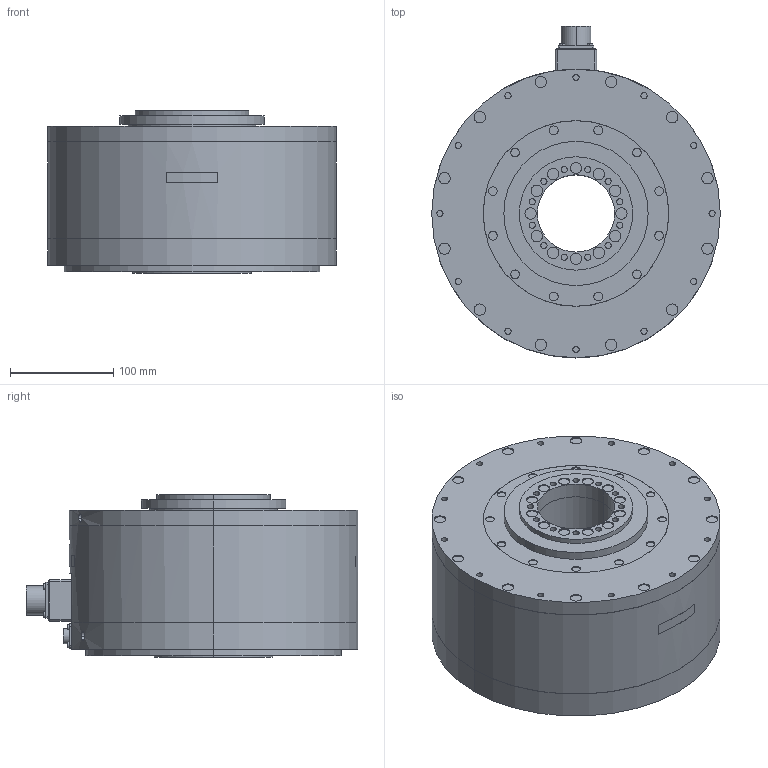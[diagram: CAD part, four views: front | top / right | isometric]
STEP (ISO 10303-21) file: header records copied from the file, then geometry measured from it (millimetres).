
FILE_DESCRIPTION (( 'STEP AP203' ), '1' );
FILE_NAME ('sgm7f_45m_a3_.STEP', '2016-08-19T11:21:32', ( '' ), ( '' ), 'SwSTEP 2.0', 'SolidWorks 2010', '' );
FILE_SCHEMA (( 'CONFIG_CONTROL_DESIGN' ));
Length unit declared in the file: millimetre
Products named in the file (1): sgm7f_45m_a3_
Bounding box: 280 x 322 x 157.5 mm (x, y, z)
Volume: 7934204.6 mm3; surface area: 323890.5 mm2
Topology: 1 solids, 1 shells, 536 faces, 1134 edges, 756 vertices
Faces by surface type: cylinder 324, plane 207, bspline 5
Entity records: 15359 total; most frequent: CARTESIAN_POINT 3062, DIRECTION 2830, ORIENTED_EDGE 2268, AXIS2_PLACEMENT_3D 1188, EDGE_CURVE 1134, VERTEX_POINT 756, EDGE_LOOP 694, CIRCLE 656
